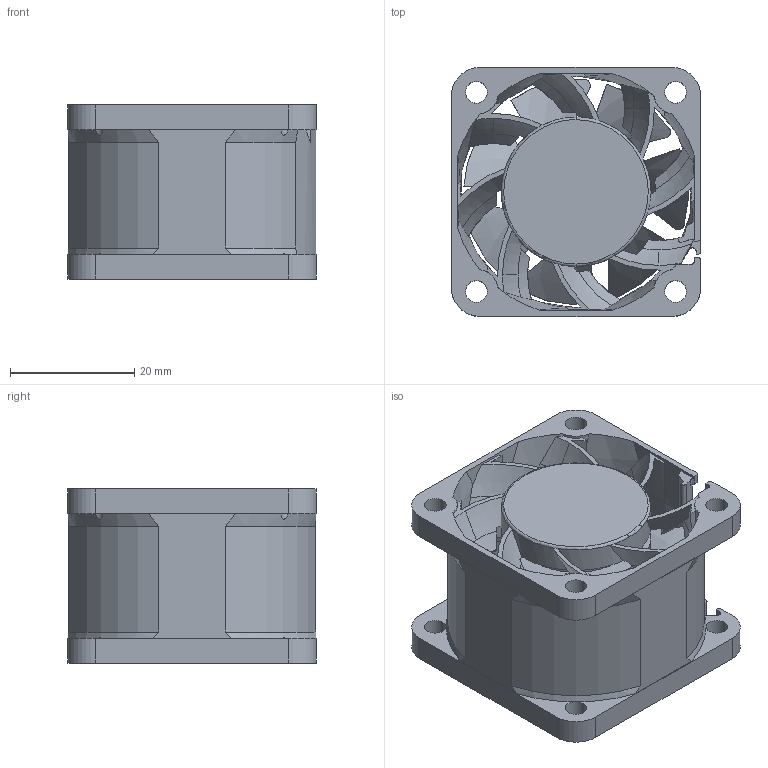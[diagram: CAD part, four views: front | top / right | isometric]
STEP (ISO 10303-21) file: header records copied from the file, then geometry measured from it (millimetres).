
FILE_DESCRIPTION (( 'STEP AP203' ), '1' );
FILE_NAME ('4028L_RIBLESS.STEP', '2017-03-23T06:20:30', ( '' ), ( '' ), 'SwSTEP 2.0', 'SolidWorks 2017', '' );
FILE_SCHEMA (( 'CONFIG_CONTROL_DESIGN' ));
Length unit declared in the file: millimetre
Products named in the file (1): 4028L_RIBLESS
Bounding box: 40 x 40 x 28 mm (x, y, z)
Volume: 18346.5 mm3; surface area: 14449 mm2
Topology: 1 solids, 1 shells, 310 faces, 910 edges, 582 vertices
Faces by surface type: cylinder 91, torus 68, plane 61, cone 46, bspline 44
Entity records: 17312 total; most frequent: CARTESIAN_POINT 9507, ORIENTED_EDGE 1820, DIRECTION 1428, EDGE_CURVE 910, AXIS2_PLACEMENT_3D 617, VERTEX_POINT 582, B_SPLINE_CURVE_WITH_KNOTS 365, CIRCLE 350
